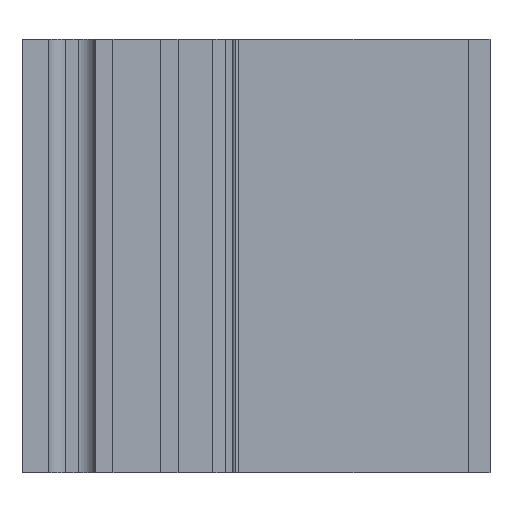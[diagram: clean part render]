
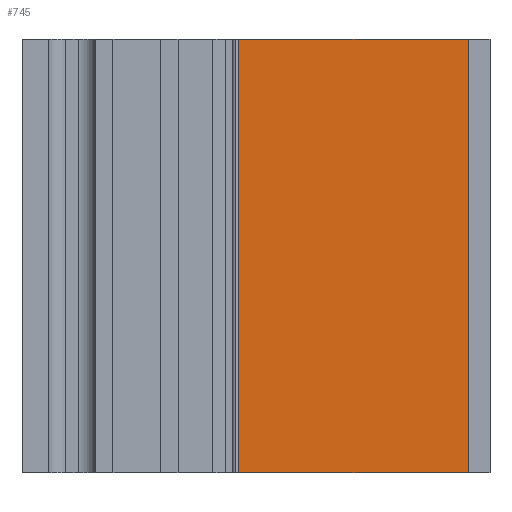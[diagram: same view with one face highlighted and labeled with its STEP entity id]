
A CAD part, left-side view. The second image highlights one B-rep face of the part: STEP entity #745.
In plain terms, the highlighted planar face has unit normal (-1, 0, 0).
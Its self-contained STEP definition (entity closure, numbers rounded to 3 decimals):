
#122 = VERTEX_POINT ( 'NONE', #2071 ) ;
#230 = EDGE_CURVE ( 'NONE', #1312, #122, #2460, .T. ) ;
#268 = ORIENTED_EDGE ( 'NONE', *, *, #230, .F. ) ;
#745 = ADVANCED_FACE ( 'NONE', ( #4269 ), #4270, .F. ) ;
#1012 = EDGE_LOOP ( 'NONE', ( #1051, #6738, #268, #3872 ) ) ;
#1051 = ORIENTED_EDGE ( 'NONE', *, *, #6247, .T. ) ;
#1312 = VERTEX_POINT ( 'NONE', #6231 ) ;
#2071 = CARTESIAN_POINT ( 'NONE',  ( -6.5, 2.5, 50. ) ) ;
#2460 = LINE ( 'NONE', #2461, #2462 ) ;
#2461 = CARTESIAN_POINT ( 'NONE',  ( -6.5, 2.5, 50. ) ) ;
#2462 = VECTOR ( 'NONE', #2463, 1000. ) ;
#2463 = DIRECTION ( 'NONE',  ( 0., -1., 0. ) ) ;
#3872 = ORIENTED_EDGE ( 'NONE', *, *, #6062, .T. ) ;
#4121 = CARTESIAN_POINT ( 'NONE',  ( -6.5, 29., 0. ) ) ;
#4269 = FACE_OUTER_BOUND ( 'NONE', #1012, .T. ) ;
#4270 = PLANE ( 'NONE',  #4271 ) ;
#4271 = AXIS2_PLACEMENT_3D ( 'NONE', #4272, #4273, #4274 ) ;
#4272 = CARTESIAN_POINT ( 'NONE',  ( -6.5, 2.5, 50. ) ) ;
#4273 = DIRECTION ( 'NONE',  ( 1., 0., 0. ) ) ;
#4274 = DIRECTION ( 'NONE',  ( 0., 0., -1. ) ) ;
#4483 = VERTEX_POINT ( 'NONE', #4121 ) ;
#4899 = LINE ( 'NONE', #4900, #4901 ) ;
#4900 = CARTESIAN_POINT ( 'NONE',  ( -6.5, 29., 50. ) ) ;
#4901 = VECTOR ( 'NONE', #4902, 1000. ) ;
#4902 = DIRECTION ( 'NONE',  ( 0., 0., -1. ) ) ;
#5003 = LINE ( 'NONE', #5004, #5005 ) ;
#5004 = CARTESIAN_POINT ( 'NONE',  ( -6.5, 2.5, 0. ) ) ;
#5005 = VECTOR ( 'NONE', #5006, 1000. ) ;
#5006 = DIRECTION ( 'NONE',  ( 0., -1., 0. ) ) ;
#5159 = CARTESIAN_POINT ( 'NONE',  ( -6.5, 2.5, 0. ) ) ;
#6062 = EDGE_CURVE ( 'NONE', #1312, #4483, #4899, .T. ) ;
#6088 = LINE ( 'NONE', #6089, #6090 ) ;
#6089 = CARTESIAN_POINT ( 'NONE',  ( -6.5, 2.5, 50. ) ) ;
#6090 = VECTOR ( 'NONE', #6091, 1000. ) ;
#6091 = DIRECTION ( 'NONE',  ( 0., 0., -1. ) ) ;
#6231 = CARTESIAN_POINT ( 'NONE',  ( -6.5, 29., 50. ) ) ;
#6247 = EDGE_CURVE ( 'NONE', #4483, #6496, #5003, .T. ) ;
#6496 = VERTEX_POINT ( 'NONE', #5159 ) ;
#6738 = ORIENTED_EDGE ( 'NONE', *, *, #6796, .F. ) ;
#6796 = EDGE_CURVE ( 'NONE', #122, #6496, #6088, .T. ) ;
